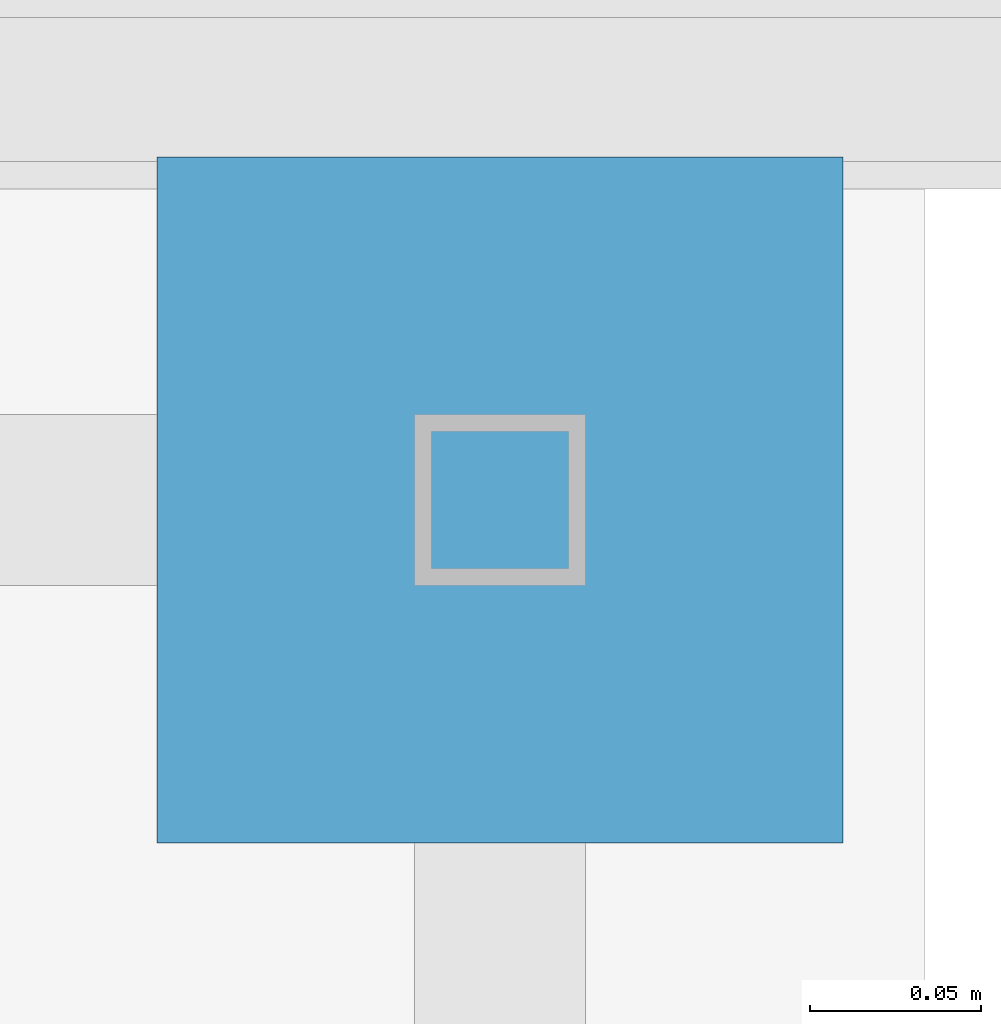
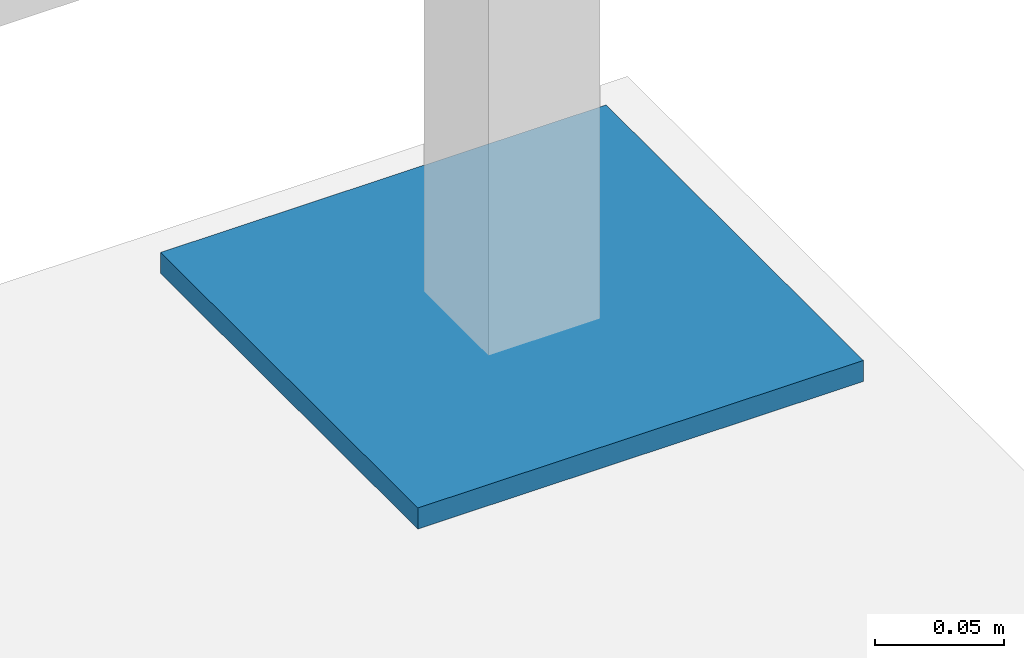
# One storey, part 63 of 418: 1 discrete accessory.
"""IFC2X3 building model written with IfcOpenShell, lengths in millimetres."""

import ifcopenshell
import ifcopenshell.guid

model = None  # the IFC model being written
_history = None  # IfcOwnerHistory: only IFC2X3 demands one
_inside = {}  # id of a spatial element -> (the spatial element, [elements in it])
_under = {}  # id of a project, library or spatial element -> (it, [spatial elements below it])
_declared = {}  # id of a project -> (the project, [libraries it declares])
_typed = {}  # id of a type object -> (the type object, [elements of that type])
_made_of = {}  # id of a material, layer set ... -> (it, [elements and type objects made of it])


def new_model(schema):
    """Start an empty IFC model of exactly this schema.

    Asked for "IFC4X3", IfcOpenShell would pick the latest addendum, in which some entities
    have other attributes; the version numbers below select the first issue.
    IFC2X3 requires an IfcOwnerHistory on every rooted entity: one is made here for all.
    """
    global model, _history
    if schema == "IFC4X3":
        model = ifcopenshell.file(schema_version=(4, 3, 0, 0))
    else:
        model = ifcopenshell.file(schema=schema)
    _inside.clear()
    _under.clear()
    _declared.clear()
    _typed.clear()
    _made_of.clear()
    _history = None
    if model.schema == "IFC2X3":
        org = make("IfcOrganization", Name="unknown")
        user = make(
            "IfcPersonAndOrganization",
            ThePerson=make("IfcPerson", FamilyName="unknown"),
            TheOrganization=org,
        )
        app = make(
            "IfcApplication",
            ApplicationDeveloper=org,
            Version="unknown",
            ApplicationFullName="unknown",
            ApplicationIdentifier="unknown",
        )
        _history = make(
            "IfcOwnerHistory",
            OwningUser=user,
            OwningApplication=app,
            ChangeAction="ADDED",
            CreationDate=0,
        )
    return model


def make(cls, **values):
    """One entity of the class cls with the attributes given. An attribute that is None is left unset."""
    return model.create_entity(
        cls, **{name: value for name, value in values.items() if value is not None}
    )


def entity(cls, *values):
    """Any entity or typed value of the class cls, its attributes in the order of the schema. None: left unset."""
    e = model.create_entity(cls)
    for i, value in enumerate(values):
        if value is not None:
            e[i] = value
    return e


def rooted(cls, **values):
    """An entity with a GlobalId (a new one), such as an element, a storey or a relation."""
    return make(cls, GlobalId=ifcopenshell.guid.new(), OwnerHistory=_history, **values)


def si_unit(unit_type, name, prefix=None):
    """IfcSIUnit, for example si_unit("LENGTHUNIT", "METRE", prefix="MILLI")."""
    return make("IfcSIUnit", UnitType=unit_type, Prefix=prefix, Name=name)


def converted_unit(unit_type, name, factor, base, dimensions=None, offset=None):
    """IfcConversionBasedUnit, such as the inch: factor (a typed value) times the base unit."""
    return make(
        "IfcConversionBasedUnit"
        if offset is None
        else "IfcConversionBasedUnitWithOffset",
        ConversionOffset=offset,
        Dimensions=None
        if dimensions is None
        else entity("IfcDimensionalExponents", *dimensions),
        UnitType=unit_type,
        Name=name,
        ConversionFactor=make(
            "IfcMeasureWithUnit", ValueComponent=factor, UnitComponent=base
        ),
    )


def derived_unit(unit_type, elements):
    """IfcDerivedUnit: a product of units, each with its exponent."""
    return make(
        "IfcDerivedUnit",
        Elements=[
            make("IfcDerivedUnitElement", Unit=unit, Exponent=power)
            for unit, power in elements
        ],
        UnitType=unit_type,
    )


def money_unit(currency):
    """IfcMonetaryUnit."""
    return make("IfcMonetaryUnit", Currency=currency)


def assignment(units):
    """IfcUnitAssignment: the units of a project."""
    return None if units is None else make("IfcUnitAssignment", Units=units)


def point(xyz):
    """IfcCartesianPoint."""
    return None if xyz is None else make("IfcCartesianPoint", Coordinates=xyz)


def direction(xyz):
    """IfcDirection."""
    return None if xyz is None else make("IfcDirection", DirectionRatios=xyz)


def frame(location, z_axis=None, x_axis=None):
    """IfcAxis2Placement3D, a coordinate frame: its origin and axes. An axis left out is left unset."""
    return make(
        "IfcAxis2Placement3D",
        Location=point(location),
        Axis=direction(z_axis),
        RefDirection=direction(x_axis),
    )


def origin_with_axes():
    """The frame at (0, 0, 0) with the z axis (0, 0, 1) and the x axis (1, 0, 0) written out."""
    return frame((0.0, 0.0, 0.0), z_axis=(0.0, 0.0, 1.0), x_axis=(1.0, 0.0, 0.0))


def place(relative_to, where):
    """IfcLocalPlacement: puts the frame where relative to a parent placement (None: the world)."""
    return make(
        "IfcLocalPlacement", PlacementRelTo=relative_to, RelativePlacement=where
    )


def context(
    kind, dimensions, precision=None, world=None, true_north=None, identifier=None
):
    """IfcGeometricRepresentationContext, for example the 3D "Model" context."""
    return make(
        "IfcGeometricRepresentationContext",
        ContextIdentifier=identifier,
        ContextType=kind,
        CoordinateSpaceDimension=dimensions,
        Precision=precision,
        WorldCoordinateSystem=world,
        TrueNorth=true_north,
    )


def subcontext(parent, identifier, kind, view, scale=None):
    """IfcGeometricRepresentationSubContext, for example "Body" below "Model"."""
    return make(
        "IfcGeometricRepresentationSubContext",
        ContextIdentifier=identifier,
        ContextType=kind,
        ParentContext=parent,
        TargetScale=scale,
        TargetView=view,
    )


def project(units=None, contexts=None):
    """IfcProject with its units and contexts."""
    return rooted(
        "IfcProject",
        Name="project",
        RepresentationContexts=contexts,
        UnitsInContext=assignment(units),
    )


def spatial(cls, under=None, at=None, **own):
    """A site, building, storey or space (cls), placed at a placement, below another one or the project."""
    s = rooted(cls, ObjectPlacement=at, **own)
    if under is not None:
        _under.setdefault(under.id(), (under, []))[1].append(s)
    return s


def polyline(points):
    """IfcPolyline through the points."""
    return make("IfcPolyline", Points=[point(p) for p in points])


def outline(outer, holes=None, kind="AREA"):
    """IfcArbitraryClosedProfileDef: a profile drawn as a closed curve; with holes, ...WithVoids."""
    if holes is None:
        return make("IfcArbitraryClosedProfileDef", ProfileType=kind, OuterCurve=outer)
    return make(
        "IfcArbitraryProfileDefWithVoids",
        ProfileType=kind,
        OuterCurve=outer,
        InnerCurves=holes,
    )


def extrude(swept, where, along, depth):
    """IfcExtrudedAreaSolid: the profile swept, set in the frame where, extruded along a direction by depth."""
    return make(
        "IfcExtrudedAreaSolid",
        SweptArea=swept,
        Position=where,
        ExtrudedDirection=direction(along),
        Depth=depth,
    )


def shape(context_of_items, identifier, shape_type, items):
    """IfcShapeRepresentation: the items that make up one representation, for example the "Body"."""
    return make(
        "IfcShapeRepresentation",
        ContextOfItems=context_of_items,
        RepresentationIdentifier=identifier,
        RepresentationType=shape_type,
        Items=items,
    )


def material(Name=None, Category=None):
    """IfcMaterial."""
    return make("IfcMaterial", Name=Name, Category=Category)


def made_of(thing, what):
    """Note that an element or type object is made of a material, layer set ...; save() writes the relation."""
    if what is not None:
        _made_of.setdefault(what.id(), (what, []))[1].append(thing)
    return thing


def type_object(cls, material=None, **own):
    """A type object (cls), such as IfcWallType, which elements share."""
    return made_of(rooted(cls, **own), material)


def element(
    cls,
    number,
    at=None,
    inside=None,
    cuts=None,
    type_object=None,
    material=None,
    context=None,
    identifier="Body",
    shape_type=None,
    held_by="IfcProductDefinitionShape",
    body=None,
    shapes=None,
    **own,
):
    """One element of the class cls, such as IfcWall. Its Tag is "e" and its number.

    at: its placement. inside: the storey or other place that contains it. cuts: it is an
    opening in that element (IfcRelVoidsElement). A single representation is given by context,
    identifier, shape_type and body (its items); several are given by shapes. held_by: the class
    of the entity that holds the representations. save() writes the other relations.
    """
    e = rooted(cls, Tag="e%d" % number, ObjectPlacement=at, **own)
    if body is not None:
        shapes = [shape(context, identifier, shape_type, body)]
    if shapes is not None:
        e.Representation = make(held_by, Representations=shapes)
    if inside is not None:
        _inside.setdefault(inside.id(), (inside, []))[1].append(e)
    if cuts is not None:
        rooted(
            "IfcRelVoidsElement", RelatingBuildingElement=cuts, RelatedOpeningElement=e
        )
    if type_object is not None:
        _typed.setdefault(type_object.id(), (type_object, []))[1].append(e)
    return made_of(e, material)


def aggregate(whole, parts):
    """IfcRelAggregates: a whole, such as a stair, and the parts it consists of."""
    return rooted("IfcRelAggregates", RelatingObject=whole, RelatedObjects=parts)


def save(model, path):
    """Write the relations noted so far, then the file.

    IfcRelAggregates (storeys below a building ...), IfcRelContainedInSpatialStructure (elements
    in a storey), IfcRelDefinesByType, IfcRelAssociatesMaterial and IfcRelDeclares: one each for
    every whole, place, type object, material and project.
    """
    for whole, parts in _under.values():
        aggregate(whole, parts)
    for where, things in _inside.values():
        rooted(
            "IfcRelContainedInSpatialStructure",
            RelatedElements=things,
            RelatingStructure=where,
        )
    for kind, things in _typed.values():
        rooted("IfcRelDefinesByType", RelatedObjects=things, RelatingType=kind)
    for what, things in _made_of.values():
        rooted("IfcRelAssociatesMaterial", RelatedObjects=things, RelatingMaterial=what)
    for by, libraries in _declared.values():
        rooted("IfcRelDeclares", RelatingContext=by, RelatedDefinitions=libraries)
    model.write(path)


model = new_model("IFC2X3")

# Units and contexts
model_context = context("Model", 3, precision=0.01, world=origin_with_axes(), true_north=direction((0.0, 1.0)))
body_context = subcontext(model_context, "Body", "Model", "MODEL_VIEW")
ifc_project = project(units=[si_unit("LENGTHUNIT", "METRE", prefix="MILLI"), si_unit("AREAUNIT", "SQUARE_METRE"), si_unit("VOLUMEUNIT", "CUBIC_METRE"), converted_unit("PLANEANGLEUNIT", "DEGREE", entity("IfcPlaneAngleMeasure", 0.0174532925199), si_unit("PLANEANGLEUNIT", "RADIAN"), dimensions=[0, 0, 0, 0, 0, 0, 0]), si_unit("SOLIDANGLEUNIT", "STERADIAN"), money_unit("EUR"), converted_unit("TIMEUNIT", "Year", entity("IfcTimeMeasure", 31556926.0), si_unit("TIMEUNIT", "SECOND"), dimensions=[0, 0, 1, 0, 0, 0, 0]), si_unit("MASSUNIT", "GRAM", prefix="KILO"), si_unit("THERMODYNAMICTEMPERATUREUNIT", "DEGREE_CELSIUS"), si_unit("LUMINOUSINTENSITYUNIT", "LUMEN"), si_unit("ENERGYUNIT", "JOULE", prefix="MEGA"), derived_unit("THERMALCONDUCTANCEUNIT", [(si_unit("POWERUNIT", "WATT"), 1), (si_unit("LENGTHUNIT", "METRE"), -1), (si_unit("THERMODYNAMICTEMPERATUREUNIT", "KELVIN"), -1)]), derived_unit("SPECIFICHEATCAPACITYUNIT", [(si_unit("ENERGYUNIT", "JOULE"), 1), (si_unit("MASSUNIT", "GRAM", prefix="KILO"), -1), (si_unit("THERMODYNAMICTEMPERATUREUNIT", "KELVIN"), -1)]), derived_unit("MASSDENSITYUNIT", [(si_unit("MASSUNIT", "GRAM", prefix="KILO"), 1), (si_unit("VOLUMEUNIT", "CUBIC_METRE"), -1)])], contexts=[model_context])

# Site, building, storey
site_placement = place(None, origin_with_axes())
site = spatial("IfcSite", under=ifc_project, at=site_placement, Name="Paldiski mnt 245/1, Tallinn, Harjumaa", CompositionType="COMPLEX")
building_placement = place(site_placement, origin_with_axes())
building = spatial("IfcBuilding", under=site, at=building_placement, Name="RKAS Hoone üldnimetus (kasutust iseloomustav) -> IFC Project Manager -> SOLIBRI", CompositionType="ELEMENT")
storey_placement = place(building_placement, origin_with_axes())
storey = spatial("IfcBuildingStorey", under=building, at=storey_placement, Name="Esimene korrus", CompositionType="ELEMENT", Elevation=0.0)

# Discrete accessory
ifc_material = material(Name="Teras")
discrete_accessory_type = type_object("IfcDiscreteAccessoryType", Name="Teras 10")
discrete_accessory_placement = place(storey_placement, frame((-48629.4231231, -680.710221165, -140.0), z_axis=(0.0, 0.0, 1.0), x_axis=(1.0, 0.0, 0.0)))
element("IfcDiscreteAccessory", 1, at=discrete_accessory_placement, inside=storey, type_object=discrete_accessory_type, material=ifc_material, Name="Kinnitus", context=body_context, shape_type="SweptSolid", body=[
    extrude(outline(polyline([(0.0, 0.0), (200.0, 0.0), (200.0, 200.0), (0.0, 200.0), (0.0, 0.0)])), frame((0.0, 0.0, -10.0), z_axis=(0.0, 0.0, 1.0), x_axis=(1.0, 0.0, 0.0)), (0.0, 0.0, 1.0), 10.0),
])

save(model, "model.ifc")
